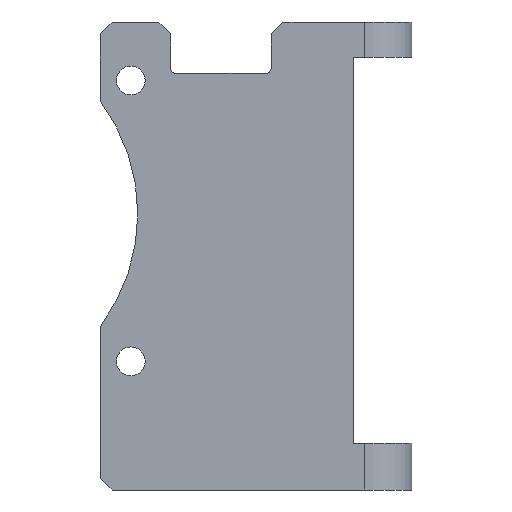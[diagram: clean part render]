
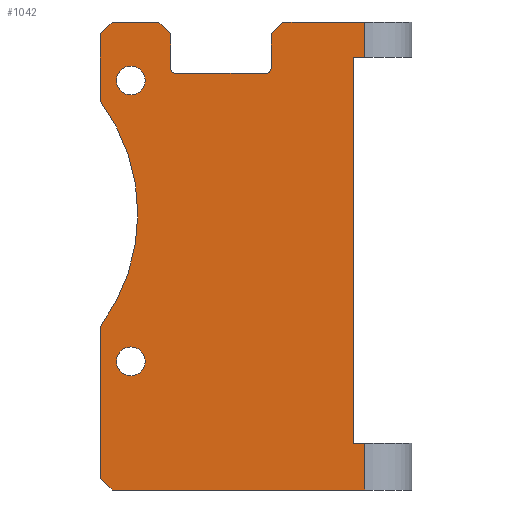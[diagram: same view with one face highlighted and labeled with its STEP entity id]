
A CAD part, left-side view. The second image highlights one B-rep face of the part: STEP entity #1042.
In plain terms, the highlighted planar face has unit normal (-1, 0, 0).
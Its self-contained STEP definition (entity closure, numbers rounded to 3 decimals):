
#17=FACE_BOUND($,#137,.T.);
#18=FACE_BOUND($,#138,.T.);
#42=PLANE($,#1115);
#80=FACE_OUTER_BOUND($,#136,.T.);
#136=EDGE_LOOP($,(#827,#828,#829,#830,#831,#832,#833,#834,#835,#836,#837,
#838,#839,#840,#841,#842,#843,#844,#845,#846));
#137=EDGE_LOOP($,(#847));
#138=EDGE_LOOP($,(#848));
#179=LINE($,#1473,#295);
#192=LINE($,#1512,#308);
#193=LINE($,#1516,#309);
#197=LINE($,#1523,#313);
#213=LINE($,#1560,#329);
#215=LINE($,#1564,#331);
#220=LINE($,#1576,#336);
#245=LINE($,#1639,#361);
#248=LINE($,#1644,#364);
#250=LINE($,#1648,#366);
#251=LINE($,#1650,#367);
#252=LINE($,#1653,#368);
#253=LINE($,#1655,#369);
#254=LINE($,#1657,#370);
#255=LINE($,#1659,#371);
#256=LINE($,#1661,#372);
#257=LINE($,#1662,#373);
#295=VECTOR($,#1178,7.6);
#308=VECTOR($,#1215,2.9);
#309=VECTOR($,#1218,1.414);
#313=VECTOR($,#1224,2.9);
#329=VECTOR($,#1250,1.414);
#331=VECTOR($,#1254,4.);
#336=VECTOR($,#1263,7.);
#361=VECTOR($,#1312,1.414);
#364=VECTOR($,#1317,13.);
#366=VECTOR($,#1321,1.414);
#367=VECTOR($,#1322,5.8);
#368=VECTOR($,#1325,21.6);
#369=VECTOR($,#1326,4.);
#370=VECTOR($,#1327,1.);
#371=VECTOR($,#1328,33.);
#372=VECTOR($,#1329,1.);
#373=VECTOR($,#1330,3.);
#408=CIRCLE($,#1078,0.5);
#414=CIRCLE($,#1090,0.5);
#425=CIRCLE($,#1116,16.);
#426=CIRCLE($,#1117,1.23);
#427=CIRCLE($,#1118,1.23);
#445=VERTEX_POINT($,#1463);
#446=VERTEX_POINT($,#1465);
#448=VERTEX_POINT($,#1471);
#460=VERTEX_POINT($,#1504);
#462=VERTEX_POINT($,#1510);
#463=VERTEX_POINT($,#1514);
#464=VERTEX_POINT($,#1515);
#482=VERTEX_POINT($,#1558);
#483=VERTEX_POINT($,#1562);
#488=VERTEX_POINT($,#1575);
#513=VERTEX_POINT($,#1637);
#514=VERTEX_POINT($,#1638);
#515=VERTEX_POINT($,#1643);
#516=VERTEX_POINT($,#1647);
#517=VERTEX_POINT($,#1649);
#518=VERTEX_POINT($,#1652);
#519=VERTEX_POINT($,#1654);
#520=VERTEX_POINT($,#1656);
#521=VERTEX_POINT($,#1658);
#522=VERTEX_POINT($,#1660);
#523=VERTEX_POINT($,#1663);
#524=VERTEX_POINT($,#1665);
#549=EDGE_CURVE($,#445,#446,#408,.T.);
#553=EDGE_CURVE($,#445,#448,#179,.T.);
#569=EDGE_CURVE($,#460,#448,#414,.T.);
#572=EDGE_CURVE($,#460,#462,#192,.T.);
#573=EDGE_CURVE($,#463,#464,#193,.T.);
#577=EDGE_CURVE($,#463,#446,#197,.T.);
#596=EDGE_CURVE($,#482,#462,#213,.T.);
#598=EDGE_CURVE($,#482,#483,#215,.T.);
#603=EDGE_CURVE($,#488,#464,#220,.T.);
#635=EDGE_CURVE($,#513,#514,#245,.T.);
#638=EDGE_CURVE($,#515,#514,#248,.T.);
#640=EDGE_CURVE($,#516,#483,#250,.T.);
#641=EDGE_CURVE($,#516,#517,#251,.T.);
#642=EDGE_CURVE($,#517,#515,#425,.T.);
#643=EDGE_CURVE($,#518,#513,#252,.T.);
#644=EDGE_CURVE($,#519,#518,#253,.T.);
#645=EDGE_CURVE($,#519,#520,#254,.T.);
#646=EDGE_CURVE($,#520,#521,#255,.T.);
#647=EDGE_CURVE($,#521,#522,#256,.T.);
#648=EDGE_CURVE($,#488,#522,#257,.T.);
#649=EDGE_CURVE($,#523,#523,#426,.T.);
#650=EDGE_CURVE($,#524,#524,#427,.T.);
#827=ORIENTED_EDGE($,*,*,#573,.F.);
#828=ORIENTED_EDGE($,*,*,#577,.T.);
#829=ORIENTED_EDGE($,*,*,#549,.F.);
#830=ORIENTED_EDGE($,*,*,#553,.T.);
#831=ORIENTED_EDGE($,*,*,#569,.F.);
#832=ORIENTED_EDGE($,*,*,#572,.T.);
#833=ORIENTED_EDGE($,*,*,#596,.F.);
#834=ORIENTED_EDGE($,*,*,#598,.T.);
#835=ORIENTED_EDGE($,*,*,#640,.F.);
#836=ORIENTED_EDGE($,*,*,#641,.T.);
#837=ORIENTED_EDGE($,*,*,#642,.T.);
#838=ORIENTED_EDGE($,*,*,#638,.T.);
#839=ORIENTED_EDGE($,*,*,#635,.F.);
#840=ORIENTED_EDGE($,*,*,#643,.F.);
#841=ORIENTED_EDGE($,*,*,#644,.F.);
#842=ORIENTED_EDGE($,*,*,#645,.T.);
#843=ORIENTED_EDGE($,*,*,#646,.T.);
#844=ORIENTED_EDGE($,*,*,#647,.T.);
#845=ORIENTED_EDGE($,*,*,#648,.F.);
#846=ORIENTED_EDGE($,*,*,#603,.T.);
#847=ORIENTED_EDGE($,*,*,#649,.T.);
#848=ORIENTED_EDGE($,*,*,#650,.T.);
#1042=ADVANCED_FACE($,(#80,#17,#18),#42,.T.);
#1078=AXIS2_PLACEMENT_3D($,#1466,#1171,#1172);
#1090=AXIS2_PLACEMENT_3D($,#1506,#1209,#1210);
#1115=AXIS2_PLACEMENT_3D($,#1646,#1319,#1320);
#1116=AXIS2_PLACEMENT_3D($,#1651,#1323,#1324);
#1117=AXIS2_PLACEMENT_3D($,#1664,#1331,#1332);
#1118=AXIS2_PLACEMENT_3D($,#1666,#1333,#1334);
#1171=DIRECTION('center_axis',(-1.,0.,0.));
#1172=DIRECTION('ref_axis',(0.,-0.707,-0.707));
#1178=DIRECTION($,(0.,1.,0.));
#1209=DIRECTION('center_axis',(-1.,0.,0.));
#1210=DIRECTION('ref_axis',(0.,0.707,-0.707));
#1215=DIRECTION($,(0.,0.,1.));
#1218=DIRECTION($,(0.,-0.707,0.707));
#1224=DIRECTION($,(0.,0.,-1.));
#1250=DIRECTION($,(0.,-0.707,-0.707));
#1254=DIRECTION($,(0.,1.,0.));
#1263=DIRECTION($,(0.,1.,0.));
#1312=DIRECTION($,(0.,0.707,0.707));
#1317=DIRECTION($,(0.,0.,-1.));
#1319=DIRECTION('center_axis',(-1.,0.,0.));
#1320=DIRECTION('ref_axis',(0.,0.,1.));
#1321=DIRECTION($,(0.,-0.707,0.707));
#1322=DIRECTION($,(0.,0.,-1.));
#1323=DIRECTION('center_axis',(1.,0.,0.));
#1324=DIRECTION('ref_axis',(0.,0.,1.));
#1325=DIRECTION($,(0.,1.,0.));
#1326=DIRECTION($,(0.,0.,-1.));
#1327=DIRECTION($,(0.,1.,0.));
#1328=DIRECTION($,(0.,0.,1.));
#1329=DIRECTION($,(0.,-1.,0.));
#1330=DIRECTION($,(0.,0.,-1.));
#1331=DIRECTION('center_axis',(1.,0.,0.));
#1332=DIRECTION('ref_axis',(0.,1.,0.));
#1333=DIRECTION('center_axis',(1.,0.,0.));
#1334=DIRECTION('ref_axis',(0.,1.,0.));
#1463=CARTESIAN_POINT('',(-8.125,12.5,35.6));
#1465=CARTESIAN_POINT('',(-8.125,12.,36.1));
#1466=CARTESIAN_POINT('Origin',(-8.125,12.5,36.1));
#1471=CARTESIAN_POINT('',(-8.125,20.1,35.6));
#1473=CARTESIAN_POINT($,(-8.125,6.,35.6));
#1504=CARTESIAN_POINT('',(-8.125,20.6,36.1));
#1506=CARTESIAN_POINT('Origin',(-8.125,20.1,36.1));
#1510=CARTESIAN_POINT('',(-8.125,20.6,39.));
#1512=CARTESIAN_POINT($,(-8.125,20.6,17.8));
#1514=CARTESIAN_POINT('',(-8.125,12.,39.));
#1515=CARTESIAN_POINT('',(-8.125,11.,40.));
#1516=CARTESIAN_POINT($,(-8.125,18.5,32.5));
#1523=CARTESIAN_POINT($,(-8.125,12.,20.));
#1558=CARTESIAN_POINT('',(-8.125,21.6,40.));
#1560=CARTESIAN_POINT($,(-8.125,5.95,24.35));
#1562=CARTESIAN_POINT('',(-8.125,25.6,40.));
#1564=CARTESIAN_POINT($,(-8.125,0.,40.));
#1575=CARTESIAN_POINT('',(-8.125,4.,40.));
#1576=CARTESIAN_POINT($,(-8.125,0.,40.));
#1637=CARTESIAN_POINT('',(-8.125,25.6,0.));
#1638=CARTESIAN_POINT('',(-8.125,26.6,1.));
#1639=CARTESIAN_POINT($,(-8.125,19.45,-6.15));
#1643=CARTESIAN_POINT('',(-8.125,26.6,14.));
#1644=CARTESIAN_POINT($,(-8.125,26.6,10.));
#1646=CARTESIAN_POINT('Origin',(-8.125,0.,0.));
#1647=CARTESIAN_POINT('',(-8.125,26.6,39.));
#1648=CARTESIAN_POINT($,(-8.125,29.45,36.15));
#1649=CARTESIAN_POINT('',(-8.125,26.6,33.2));
#1650=CARTESIAN_POINT($,(-8.125,26.6,10.));
#1651=CARTESIAN_POINT('Origin',(-8.125,39.4,23.6));
#1652=CARTESIAN_POINT('',(-8.125,4.,0.));
#1653=CARTESIAN_POINT($,(-8.125,0.,0.));
#1654=CARTESIAN_POINT('',(-8.125,4.,4.));
#1655=CARTESIAN_POINT($,(-8.125,4.,0.));
#1656=CARTESIAN_POINT('',(-8.125,5.,4.));
#1657=CARTESIAN_POINT($,(-8.125,0.,4.));
#1658=CARTESIAN_POINT('',(-8.125,5.,37.));
#1659=CARTESIAN_POINT($,(-8.125,5.,10.25));
#1660=CARTESIAN_POINT('',(-8.125,4.,37.));
#1661=CARTESIAN_POINT($,(-8.125,0.,37.));
#1662=CARTESIAN_POINT($,(-8.125,4.,0.));
#1663=CARTESIAN_POINT('',(-8.125,22.771,11.));
#1664=CARTESIAN_POINT('Origin',(-8.125,24.,11.));
#1665=CARTESIAN_POINT('',(-8.125,22.771,35.));
#1666=CARTESIAN_POINT('Origin',(-8.125,24.,35.));
